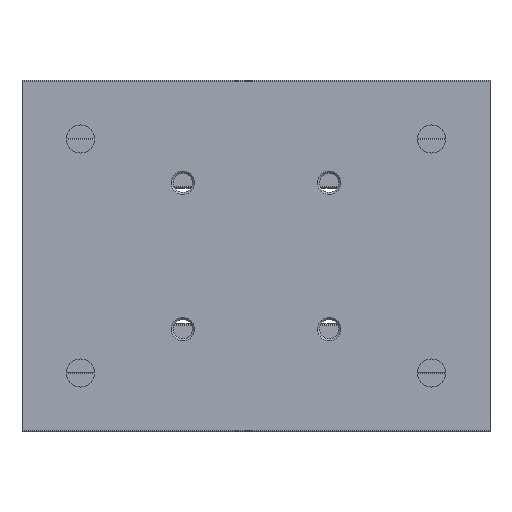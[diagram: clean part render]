
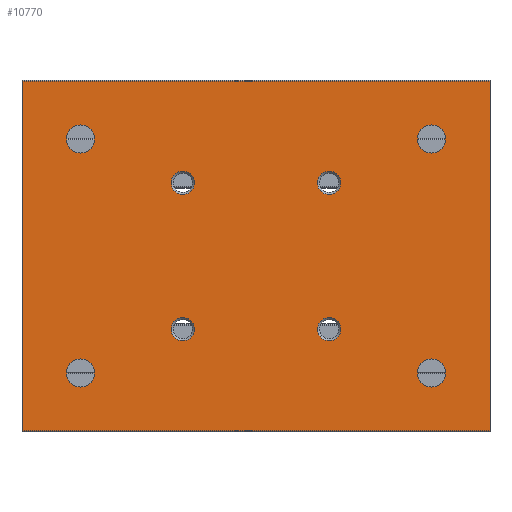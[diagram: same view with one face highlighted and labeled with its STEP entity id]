
A CAD part, front view. The second image highlights one B-rep face of the part: STEP entity #10770.
In plain terms, the highlighted planar face has unit normal (0, -1, 0).
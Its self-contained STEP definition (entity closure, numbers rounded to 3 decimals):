
#354=CIRCLE('',#11406,2.);
#355=CIRCLE('',#11407,2.);
#356=CIRCLE('',#11408,2.);
#357=CIRCLE('',#11409,2.);
#358=CIRCLE('',#11410,2.4);
#359=CIRCLE('',#11411,2.4);
#360=CIRCLE('',#11412,2.4);
#361=CIRCLE('',#11413,2.4);
#1074=ORIENTED_EDGE('',*,*,#4375,.F.);
#1075=ORIENTED_EDGE('',*,*,#4376,.F.);
#1076=ORIENTED_EDGE('',*,*,#4377,.F.);
#1077=ORIENTED_EDGE('',*,*,#4378,.F.);
#1078=ORIENTED_EDGE('',*,*,#4379,.T.);
#1079=ORIENTED_EDGE('',*,*,#4380,.F.);
#1080=ORIENTED_EDGE('',*,*,#4381,.F.);
#1081=ORIENTED_EDGE('',*,*,#4382,.F.);
#1082=ORIENTED_EDGE('',*,*,#4349,.T.);
#1083=ORIENTED_EDGE('',*,*,#4383,.F.);
#1084=ORIENTED_EDGE('',*,*,#4384,.F.);
#1085=ORIENTED_EDGE('',*,*,#4373,.T.);
#4349=EDGE_CURVE('',#6002,#6001,#7109,.T.);
#4373=EDGE_CURVE('',#6024,#6002,#7133,.T.);
#4375=EDGE_CURVE('',#6025,#6025,#354,.T.);
#4376=EDGE_CURVE('',#6026,#6026,#355,.T.);
#4377=EDGE_CURVE('',#6027,#6027,#356,.T.);
#4378=EDGE_CURVE('',#6028,#6028,#357,.T.);
#4379=EDGE_CURVE('',#6029,#6029,#358,.T.);
#4380=EDGE_CURVE('',#6030,#6030,#359,.T.);
#4381=EDGE_CURVE('',#6031,#6031,#360,.T.);
#4382=EDGE_CURVE('',#6032,#6032,#361,.T.);
#4383=EDGE_CURVE('',#6033,#6001,#7135,.T.);
#4384=EDGE_CURVE('',#6024,#6033,#7136,.T.);
#6001=VERTEX_POINT('',#16272);
#6002=VERTEX_POINT('',#16274);
#6024=VERTEX_POINT('',#16323);
#6025=VERTEX_POINT('',#16327);
#6026=VERTEX_POINT('',#16329);
#6027=VERTEX_POINT('',#16331);
#6028=VERTEX_POINT('',#16333);
#6029=VERTEX_POINT('',#16335);
#6030=VERTEX_POINT('',#16337);
#6031=VERTEX_POINT('',#16339);
#6032=VERTEX_POINT('',#16341);
#6033=VERTEX_POINT('',#16343);
#7109=LINE('',#16273,#8125);
#7133=LINE('',#16322,#8149);
#7135=LINE('',#16342,#8151);
#7136=LINE('',#16344,#8152);
#8125=VECTOR('',#12714,1000.);
#8149=VECTOR('',#12744,1000.);
#8151=VECTOR('',#12764,1000.);
#8152=VECTOR('',#12765,1000.);
#9097=EDGE_LOOP('',(#1074));
#9098=EDGE_LOOP('',(#1075));
#9099=EDGE_LOOP('',(#1076));
#9100=EDGE_LOOP('',(#1077));
#9101=EDGE_LOOP('',(#1078));
#9102=EDGE_LOOP('',(#1079));
#9103=EDGE_LOOP('',(#1080));
#9104=EDGE_LOOP('',(#1081));
#9105=EDGE_LOOP('',(#1082,#1083,#1084,#1085));
#9791=FACE_BOUND('',#9097,.T.);
#9792=FACE_BOUND('',#9098,.T.);
#9793=FACE_BOUND('',#9099,.T.);
#9794=FACE_BOUND('',#9100,.T.);
#9795=FACE_BOUND('',#9101,.T.);
#9796=FACE_BOUND('',#9102,.T.);
#9797=FACE_BOUND('',#9103,.T.);
#9798=FACE_BOUND('',#9104,.T.);
#9799=FACE_BOUND('',#9105,.T.);
#10485=PLANE('',#11405);
#10770=ADVANCED_FACE('',(#9791,#9792,#9793,#9794,#9795,#9796,#9797,#9798,
#9799),#10485,.F.);
#11405=AXIS2_PLACEMENT_3D('',#16325,#12746,#12747);
#11406=AXIS2_PLACEMENT_3D('',#16326,#12748,#12749);
#11407=AXIS2_PLACEMENT_3D('',#16328,#12750,#12751);
#11408=AXIS2_PLACEMENT_3D('',#16330,#12752,#12753);
#11409=AXIS2_PLACEMENT_3D('',#16332,#12754,#12755);
#11410=AXIS2_PLACEMENT_3D('',#16334,#12756,#12757);
#11411=AXIS2_PLACEMENT_3D('',#16336,#12758,#12759);
#11412=AXIS2_PLACEMENT_3D('',#16338,#12760,#12761);
#11413=AXIS2_PLACEMENT_3D('',#16340,#12762,#12763);
#12714=DIRECTION('',(0.,0.,-1.));
#12744=DIRECTION('',(-1.,0.,0.));
#12746=DIRECTION('',(0.,1.,0.));
#12747=DIRECTION('',(0.,0.,1.));
#12748=DIRECTION('',(0.,-1.,0.));
#12749=DIRECTION('',(0.,0.,-1.));
#12750=DIRECTION('',(0.,-1.,0.));
#12751=DIRECTION('',(0.,0.,-1.));
#12752=DIRECTION('',(0.,-1.,0.));
#12753=DIRECTION('',(0.,0.,-1.));
#12754=DIRECTION('',(0.,-1.,0.));
#12755=DIRECTION('',(0.,0.,-1.));
#12756=DIRECTION('',(0.,1.,0.));
#12757=DIRECTION('',(0.,0.,1.));
#12758=DIRECTION('',(0.,-1.,0.));
#12759=DIRECTION('',(0.,0.,-1.));
#12760=DIRECTION('',(0.,-1.,0.));
#12761=DIRECTION('',(0.,0.,-1.));
#12762=DIRECTION('',(0.,-1.,0.));
#12763=DIRECTION('',(0.,0.,-1.));
#12764=DIRECTION('',(-1.,0.,0.));
#12765=DIRECTION('',(0.,0.,-1.));
#16272=CARTESIAN_POINT('',(0.,0.,-29.85));
#16273=CARTESIAN_POINT('',(0.,0.,29.85));
#16274=CARTESIAN_POINT('',(0.,0.,29.85));
#16322=CARTESIAN_POINT('',(80.,0.,29.85));
#16323=CARTESIAN_POINT('',(80.,0.,29.85));
#16325=CARTESIAN_POINT('',(80.,0.,29.85));
#16326=CARTESIAN_POINT('',(52.5,0.,-12.5));
#16327=CARTESIAN_POINT('',(52.5,0.,-14.5));
#16328=CARTESIAN_POINT('',(52.5,0.,12.5));
#16329=CARTESIAN_POINT('',(52.5,0.,10.5));
#16330=CARTESIAN_POINT('',(27.5,0.,-12.5));
#16331=CARTESIAN_POINT('',(27.5,0.,-14.5));
#16332=CARTESIAN_POINT('',(27.5,0.,12.5));
#16333=CARTESIAN_POINT('',(27.5,0.,10.5));
#16334=CARTESIAN_POINT('',(70.,0.,20.));
#16335=CARTESIAN_POINT('',(70.,0.,22.4));
#16336=CARTESIAN_POINT('',(70.,0.,-20.));
#16337=CARTESIAN_POINT('',(70.,0.,-22.4));
#16338=CARTESIAN_POINT('',(10.,0.,-20.));
#16339=CARTESIAN_POINT('',(10.,0.,-22.4));
#16340=CARTESIAN_POINT('',(10.,0.,20.));
#16341=CARTESIAN_POINT('',(10.,0.,17.6));
#16342=CARTESIAN_POINT('',(80.,0.,-29.85));
#16343=CARTESIAN_POINT('',(80.,0.,-29.85));
#16344=CARTESIAN_POINT('',(80.,0.,29.85));
